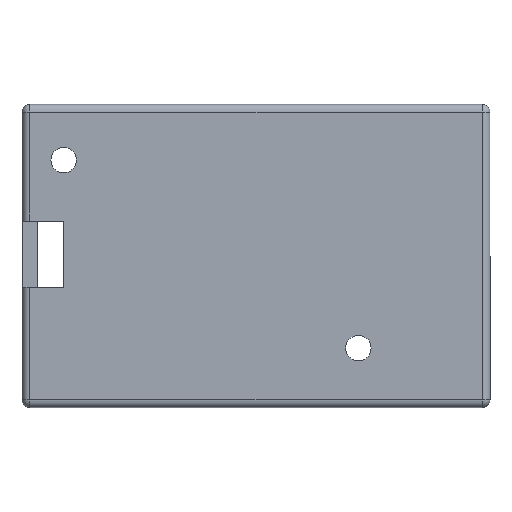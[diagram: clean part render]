
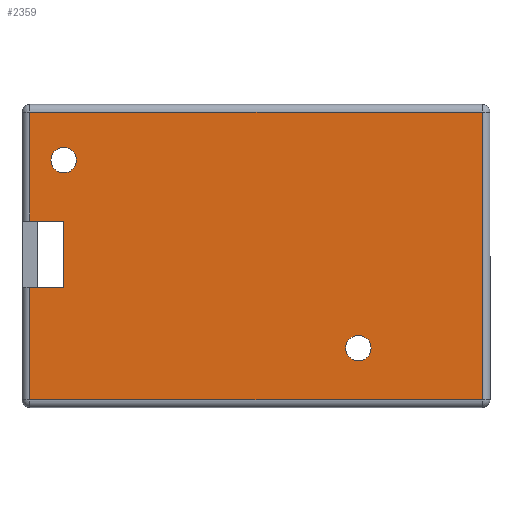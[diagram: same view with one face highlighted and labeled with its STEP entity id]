
A CAD part, front view. The second image highlights one B-rep face of the part: STEP entity #2359.
In plain terms, the highlighted planar face has unit normal (0, -1, 0).
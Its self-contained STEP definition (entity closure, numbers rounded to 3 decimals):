
#27=FACE_BOUND('',#325,.T.);
#28=FACE_BOUND('',#326,.T.);
#117=CIRCLE('',#2535,2.5);
#118=CIRCLE('',#2536,2.5);
#183=FACE_OUTER_BOUND('',#324,.T.);
#324=EDGE_LOOP('',(#1753,#1754,#1755,#1756,#1757,#1758,#1759,#1760));
#325=EDGE_LOOP('',(#1761));
#326=EDGE_LOOP('',(#1762));
#523=LINE('',#3606,#796);
#524=LINE('',#3615,#797);
#527=LINE('',#3622,#800);
#535=LINE('',#3637,#808);
#538=LINE('',#3645,#811);
#540=LINE('',#3649,#813);
#544=LINE('',#3656,#817);
#545=LINE('',#3657,#818);
#796=VECTOR('',#2874,10.);
#797=VECTOR('',#2885,10.);
#800=VECTOR('',#2892,10.);
#808=VECTOR('',#2910,10.);
#811=VECTOR('',#2919,10.);
#813=VECTOR('',#2923,10.);
#817=VECTOR('',#2929,10.);
#818=VECTOR('',#2930,10.);
#1071=VERTEX_POINT('',#3584);
#1074=VERTEX_POINT('',#3591);
#1079=VERTEX_POINT('',#3601);
#1082=VERTEX_POINT('',#3611);
#1083=VERTEX_POINT('',#3618);
#1088=VERTEX_POINT('',#3643);
#1089=VERTEX_POINT('',#3648);
#1091=VERTEX_POINT('',#3655);
#1092=VERTEX_POINT('',#3658);
#1093=VERTEX_POINT('',#3660);
#1323=EDGE_CURVE('',#1074,#1079,#523,.T.);
#1327=EDGE_CURVE('',#1079,#1082,#524,.T.);
#1331=EDGE_CURVE('',#1082,#1083,#527,.T.);
#1340=EDGE_CURVE('',#1071,#1074,#535,.T.);
#1344=EDGE_CURVE('',#1088,#1071,#538,.T.);
#1346=EDGE_CURVE('',#1089,#1083,#540,.T.);
#1350=EDGE_CURVE('',#1091,#1088,#544,.T.);
#1351=EDGE_CURVE('',#1091,#1089,#545,.T.);
#1352=EDGE_CURVE('',#1092,#1092,#117,.T.);
#1353=EDGE_CURVE('',#1093,#1093,#118,.T.);
#1753=ORIENTED_EDGE('',*,*,#1331,.F.);
#1754=ORIENTED_EDGE('',*,*,#1327,.F.);
#1755=ORIENTED_EDGE('',*,*,#1323,.F.);
#1756=ORIENTED_EDGE('',*,*,#1340,.F.);
#1757=ORIENTED_EDGE('',*,*,#1344,.F.);
#1758=ORIENTED_EDGE('',*,*,#1350,.F.);
#1759=ORIENTED_EDGE('',*,*,#1351,.T.);
#1760=ORIENTED_EDGE('',*,*,#1346,.T.);
#1761=ORIENTED_EDGE('',*,*,#1352,.T.);
#1762=ORIENTED_EDGE('',*,*,#1353,.T.);
#2248=PLANE('',#2534);
#2359=ADVANCED_FACE('',(#183,#27,#28),#2248,.F.);
#2534=AXIS2_PLACEMENT_3D('',#3654,#2927,#2928);
#2535=AXIS2_PLACEMENT_3D('',#3659,#2931,#2932);
#2536=AXIS2_PLACEMENT_3D('',#3661,#2933,#2934);
#2874=DIRECTION('',(0.,0.,-1.));
#2885=DIRECTION('',(-1.,0.,0.));
#2892=DIRECTION('',(0.,0.,1.));
#2910=DIRECTION('',(1.,0.,0.));
#2919=DIRECTION('',(0.,0.,1.));
#2923=DIRECTION('',(-1.,0.,0.));
#2927=DIRECTION('center_axis',(0.,1.,0.));
#2928=DIRECTION('ref_axis',(1.,0.,0.));
#2929=DIRECTION('',(-1.,0.,0.));
#2930=DIRECTION('',(0.,0.,-1.));
#2931=DIRECTION('center_axis',(0.,1.,0.));
#2932=DIRECTION('ref_axis',(-1.,0.,0.));
#2933=DIRECTION('center_axis',(0.,1.,0.));
#2934=DIRECTION('ref_axis',(-1.,0.,0.));
#3584=CARTESIAN_POINT('',(-113.2,-6.,55.95));
#3591=CARTESIAN_POINT('',(-24.1,-6.,55.95));
#3601=CARTESIAN_POINT('',(-24.1,-6.,-0.7));
#3606=CARTESIAN_POINT('',(-24.1,-6.,24.));
#3611=CARTESIAN_POINT('',(-113.2,-6.,-0.7));
#3615=CARTESIAN_POINT('',(-44.8,-6.,-0.7));
#3618=CARTESIAN_POINT('',(-113.2,-6.,21.5));
#3622=CARTESIAN_POINT('',(-113.2,-6.,12.9));
#3637=CARTESIAN_POINT('',(-46.,-6.,55.95));
#3643=CARTESIAN_POINT('',(-113.2,-6.,34.5));
#3645=CARTESIAN_POINT('',(-113.2,-6.,12.9));
#3648=CARTESIAN_POINT('',(-106.5,-6.,21.5));
#3649=CARTESIAN_POINT('',(-112.2,-6.,21.5));
#3654=CARTESIAN_POINT('Origin',(-67.,-6.,28.));
#3655=CARTESIAN_POINT('',(-106.5,-6.,34.5));
#3656=CARTESIAN_POINT('',(-112.2,-6.,34.5));
#3657=CARTESIAN_POINT('',(-106.5,-6.,23.25));
#3658=CARTESIAN_POINT('',(-104.,-6.,46.5));
#3659=CARTESIAN_POINT('Origin',(-106.5,-6.,46.5));
#3660=CARTESIAN_POINT('',(-46.,-6.,9.5));
#3661=CARTESIAN_POINT('Origin',(-48.5,-6.,9.5));
